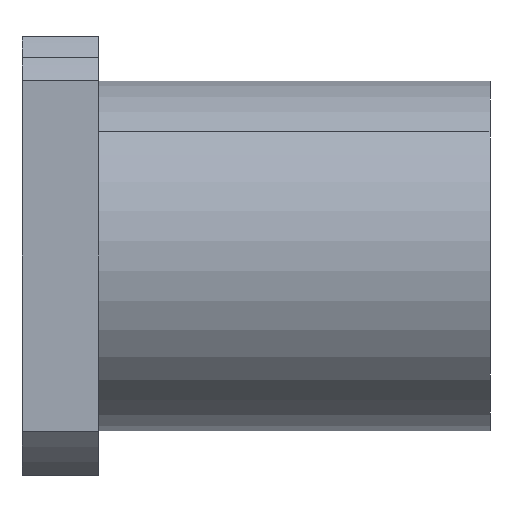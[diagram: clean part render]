
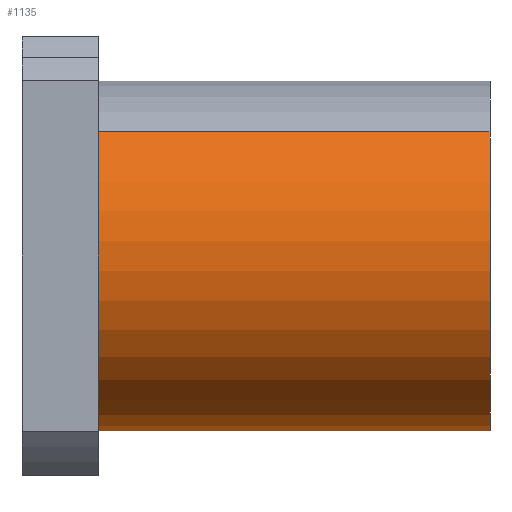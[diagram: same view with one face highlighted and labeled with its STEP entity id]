
A CAD part, front view. The second image highlights one B-rep face of the part: STEP entity #1135.
In plain terms, the highlighted cylindrical face has radius 30 mm (diameter 60 mm), a partial arc.
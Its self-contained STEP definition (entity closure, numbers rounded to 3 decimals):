
#15 = CARTESIAN_POINT ( 'NONE',  ( 80., 0., 0. ) ) ;
#25 = VECTOR ( 'NONE', #873, 1000. ) ;
#70 = FACE_OUTER_BOUND ( 'NONE', #936, .T. ) ;
#75 = CARTESIAN_POINT ( 'NONE',  ( 80., 21.213, -21.213 ) ) ;
#84 = VECTOR ( 'NONE', #466, 1000. ) ;
#138 = CIRCLE ( 'NONE', #781, 30. ) ;
#139 = EDGE_CURVE ( 'NONE', #719, #774, #579, .T. ) ;
#247 = CARTESIAN_POINT ( 'NONE',  ( 13., 21.213, -21.213 ) ) ;
#249 = VERTEX_POINT ( 'NONE', #1053 ) ;
#262 = ORIENTED_EDGE ( 'NONE', *, *, #139, .F. ) ;
#291 = ORIENTED_EDGE ( 'NONE', *, *, #853, .F. ) ;
#402 = CARTESIAN_POINT ( 'NONE',  ( 80., 21.213, -21.213 ) ) ;
#406 = DIRECTION ( 'NONE',  ( 1., 0., 0. ) ) ;
#432 = CARTESIAN_POINT ( 'NONE',  ( 80., 0., 0. ) ) ;
#440 = EDGE_CURVE ( 'NONE', #635, #249, #720, .T. ) ;
#466 = DIRECTION ( 'NONE',  ( -1., 0., 0. ) ) ;
#482 = CIRCLE ( 'NONE', #544, 30. ) ;
#544 = AXIS2_PLACEMENT_3D ( 'NONE', #15, #737, #1084 ) ;
#556 = ORIENTED_EDGE ( 'NONE', *, *, #1015, .T. ) ;
#579 = LINE ( 'NONE', #402, #25 ) ;
#635 = VERTEX_POINT ( 'NONE', #1143 ) ;
#670 = DIRECTION ( 'NONE',  ( 0., 0.707, -0.707 ) ) ;
#719 = VERTEX_POINT ( 'NONE', #75 ) ;
#720 = LINE ( 'NONE', #909, #84 ) ;
#737 = DIRECTION ( 'NONE',  ( 1., 0., 0. ) ) ;
#774 = VERTEX_POINT ( 'NONE', #247 ) ;
#781 = AXIS2_PLACEMENT_3D ( 'NONE', #957, #406, #670 ) ;
#790 = CYLINDRICAL_SURFACE ( 'NONE', #955, 30. ) ;
#853 = EDGE_CURVE ( 'NONE', #635, #719, #482, .T. ) ;
#873 = DIRECTION ( 'NONE',  ( -1., 0., 0. ) ) ;
#909 = CARTESIAN_POINT ( 'NONE',  ( 80., -21.213, 21.213 ) ) ;
#936 = EDGE_LOOP ( 'NONE', ( #291, #1018, #556, #262 ) ) ;
#955 = AXIS2_PLACEMENT_3D ( 'NONE', #432, #1136, #1150 ) ;
#957 = CARTESIAN_POINT ( 'NONE',  ( 13., 0., 0. ) ) ;
#1015 = EDGE_CURVE ( 'NONE', #249, #774, #138, .T. ) ;
#1018 = ORIENTED_EDGE ( 'NONE', *, *, #440, .T. ) ;
#1053 = CARTESIAN_POINT ( 'NONE',  ( 13., -21.213, 21.213 ) ) ;
#1084 = DIRECTION ( 'NONE',  ( 0., 0.707, -0.707 ) ) ;
#1135 = ADVANCED_FACE ( 'NONE', ( #70 ), #790, .T. ) ;
#1136 = DIRECTION ( 'NONE',  ( -1., 0., 0. ) ) ;
#1143 = CARTESIAN_POINT ( 'NONE',  ( 80., -21.213, 21.213 ) ) ;
#1150 = DIRECTION ( 'NONE',  ( 0., 0.707, -0.707 ) ) ;
